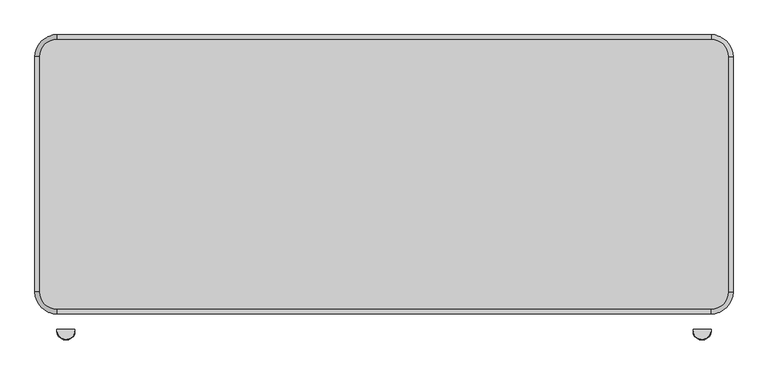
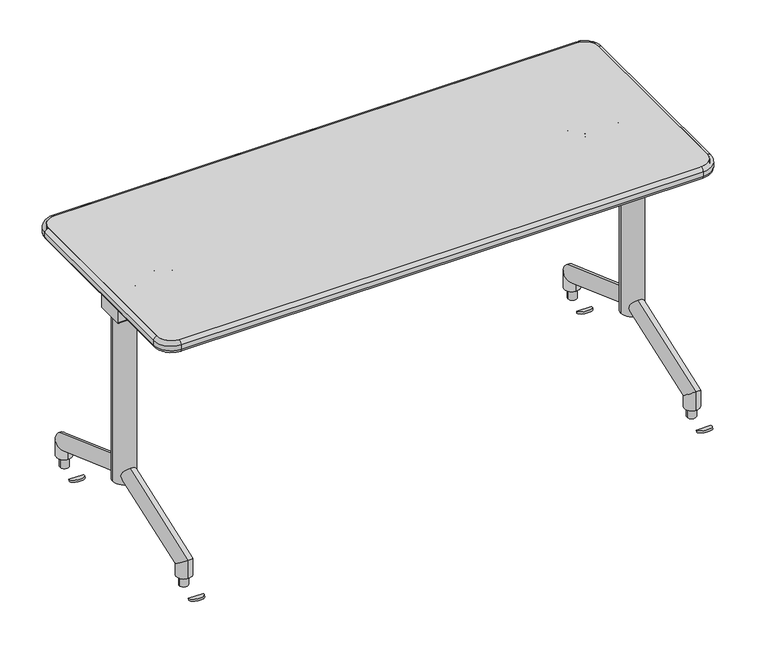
"""IFC4 building model written with IfcOpenShell, lengths in millimetres: furniture geometry, SmithSystem_AM_Table_Education_Elemental_NestAndFold_24D : 24D x 60W."""

from ifc_helpers import new_model, si_unit, point, frame, frame_2d, origin, place, context, project, spatial, polyline, circle_curve, ellipse_curve, trimmed, segment, composite_curve, outline, extrude, source, transform, mapped, element, save
from ifc_brep_helpers import plane_surface, cylinder_surface, revolved_surface, advanced_brep


def furniture_4304682f(model_context):
    return source(origin(), model_context, "Body", "SolidModel", [
        advanced_brep(
        [(1334.7134706, 300.3641301, 727.8257265), (1334.7134706, 307.6350093, 724.192725), (1327.0335156, 307.6350093, 724.192725), (1327.0335156, 300.3641301, 727.8257265), (1321.5159237, 312.5707555, 721.7265071), (1313.3879237, 312.5707555, 721.7265071), (1321.5159237, 377.8125708, 689.1274772), (1313.3879237, 377.8125708, 689.1274772), (1327.1310849, 382.8355973, 686.6176484), (1327.1310849, 390.1064765, 682.9846469), (1427.2139747, 382.8355973, 686.6176484), (1427.2139747, 390.1064765, 682.9846469), (1432.8070377, 377.8323387, 689.1175999), (1440.9350377, 377.8323387, 689.1175999), (1432.8070377, 312.6793981, 721.6722222), (1440.9350377, 312.6793981, 721.6722222), (1427.1679959, 307.6350093, 724.192725), (1427.1679959, 300.3641301, 727.8257265), (1419.6094908, 300.3641301, 727.8257265), (1419.6094908, 307.6350093, 724.192725)],
        [
            (0, 1, circle_curve(frame((1334.7134706, 303.9995697, 726.0092257), z_axis=(1.0, 0.0, 0.0), x_axis=(0.0, 0.8945471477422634, -0.44697360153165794)), 4.064)),
            (1, 0, circle_curve(frame((1334.7134706, 303.9995697, 726.0092257), z_axis=(1.0, 0.0, 0.0), x_axis=(0.0, 0.8945471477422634, -0.44697360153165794)), 4.064)),
            (1, 2),
            (2, 3, circle_curve(frame((1327.0335156, 303.9995697, 726.0092257), z_axis=(1.0, 0.0, 0.0), x_axis=(0.0, 0.8945471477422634, -0.44697360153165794)), 4.064)),
            (3, 0),
            (3, 2, circle_curve(frame((1327.0335156, 303.9995697, 726.0092257), z_axis=(1.0, 0.0, 0.0), x_axis=(0.0, 0.8945471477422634, -0.44697360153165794)), 4.064)),
            (4, 5, circle_curve(frame((1317.4519237, 312.5707555, 721.7265071), z_axis=(0.0, -0.8945471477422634, 0.44697360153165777), x_axis=(1.0, 0.0, 0.0)), 4.064)),
            (5, 3, circle_curve(frame((1327.0335156, 312.5707555, 721.7265071), z_axis=(0.0, 0.4469736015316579, 0.8945471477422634), x_axis=(0.0, -0.8945471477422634, 0.4469736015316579)), 13.645592)),
            (2, 4, circle_curve(frame((1327.0335156, 312.5707555, 721.7265071), z_axis=(0.0, -0.4469736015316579, -0.8945471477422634), x_axis=(0.0, -0.8945471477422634, 0.4469736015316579)), 5.517592)),
            (5, 4, circle_curve(frame((1317.4519237, 312.5707555, 721.7265071), z_axis=(0.0, -0.8945471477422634, 0.44697360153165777), x_axis=(1.0, 0.0, 0.0)), 4.064)),
            (4, 6),
            (6, 7, circle_curve(frame((1317.4519237, 377.8125708, 689.1274772), z_axis=(0.0, -0.8945471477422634, 0.44697360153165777), x_axis=(1.0, 0.0, 0.0)), 4.064)),
            (7, 5),
            (7, 6, circle_curve(frame((1317.4519237, 377.8125708, 689.1274772), z_axis=(0.0, -0.8945471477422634, 0.44697360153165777), x_axis=(1.0, 0.0, 0.0)), 4.064)),
            (8, 9, circle_curve(frame((1327.1310849, 386.4710369, 684.8011476), z_axis=(-1.0, 0.0, 0.0), x_axis=(0.0, -0.8945471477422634, 0.44697360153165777)), 4.064)),
            (9, 7, circle_curve(frame((1327.1310849, 377.8125708, 689.1274772), z_axis=(0.0, 0.4469736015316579, 0.8945471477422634), x_axis=(-1.0, 0.0, 0.0)), 13.7431612)),
            (6, 8, circle_curve(frame((1327.1310849, 377.8125708, 689.1274772), z_axis=(0.0, -0.4469736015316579, -0.8945471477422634), x_axis=(-1.0, 0.0, 0.0)), 5.6151612)),
            (9, 8, circle_curve(frame((1327.1310849, 386.4710369, 684.8011476), z_axis=(-1.0, 0.0, 0.0), x_axis=(0.0, -0.8945471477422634, 0.44697360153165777)), 4.064)),
            (8, 10),
            (10, 11, circle_curve(frame((1427.2139747, 386.4710369, 684.8011476), z_axis=(-1.0, 0.0, 0.0), x_axis=(0.0, -0.8945471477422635, 0.44697360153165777)), 4.064)),
            (11, 9),
            (11, 10, circle_curve(frame((1427.2139747, 386.4710369, 684.8011476), z_axis=(-1.0, 0.0, 0.0), x_axis=(0.0, -0.8945471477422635, 0.44697360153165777)), 4.064)),
            (12, 13, circle_curve(frame((1436.8710377, 377.8323387, 689.1175999), z_axis=(0.0, 0.8945471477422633, -0.44697360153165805), x_axis=(-1.0, 0.0, 0.0)), 4.064)),
            (13, 11, circle_curve(frame((1427.2139747, 377.8323387, 689.1175999), z_axis=(0.0, 0.4469736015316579, 0.8945471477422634), x_axis=(0.0, 0.8945471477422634, -0.4469736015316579)), 13.721063)),
            (10, 12, circle_curve(frame((1427.2139747, 377.8323387, 689.1175999), z_axis=(0.0, -0.4469736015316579, -0.8945471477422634), x_axis=(0.0, 0.8945471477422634, -0.4469736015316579)), 5.593063)),
            (13, 12, circle_curve(frame((1436.8710377, 377.8323387, 689.1175999), z_axis=(0.0, 0.8945471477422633, -0.44697360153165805), x_axis=(-1.0, 0.0, 0.0)), 4.064)),
            (12, 14),
            (14, 15, circle_curve(frame((1436.8710377, 312.6793981, 721.6722222), z_axis=(0.0, 0.894547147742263, -0.4469736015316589), x_axis=(-1.0, 0.0, 0.0)), 4.064)),
            (15, 13),
            (15, 14, circle_curve(frame((1436.8710377, 312.6793981, 721.6722222), z_axis=(0.0, 0.894547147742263, -0.4469736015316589), x_axis=(-1.0, 0.0, 0.0)), 4.064)),
            (16, 17, circle_curve(frame((1427.1679959, 303.9995697, 726.0092257), z_axis=(1.0, 0.0, 0.0), x_axis=(0.0, 0.8945471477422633, -0.446973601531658)), 4.064)),
            (17, 15, circle_curve(frame((1427.1679959, 312.6793981, 721.6722222), z_axis=(0.0, 0.4469736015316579, 0.8945471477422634), x_axis=(1.0, 0.0, 0.0)), 13.7670418)),
            (14, 16, circle_curve(frame((1427.1679959, 312.6793981, 721.6722222), z_axis=(0.0, -0.4469736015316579, -0.8945471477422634), x_axis=(1.0, 0.0, 0.0)), 5.6390418)),
            (17, 16, circle_curve(frame((1427.1679959, 303.9995697, 726.0092257), z_axis=(1.0, 0.0, 0.0), x_axis=(0.0, 0.8945471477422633, -0.446973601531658)), 4.064)),
            (18, 19, circle_curve(frame((1419.6094908, 303.9995697, 726.0092257), z_axis=(-1.0, 0.0, 0.0), x_axis=(0.0, 0.8945471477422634, -0.44697360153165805)), 4.064)),
            (19, 18, circle_curve(frame((1419.6094908, 303.9995697, 726.0092257), z_axis=(-1.0, 0.0, 0.0), x_axis=(0.0, 0.8945471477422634, -0.44697360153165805)), 4.064)),
            (16, 19),
            (18, 17),
        ],
        [
            plane_surface(frame((1334.7134706, 309.47432, 727.857014), z_axis=(1.0, 0.0, 0.0), x_axis=(0.0, 0.44697360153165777, 0.8945471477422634))),
            cylinder_surface(frame((1334.7134706, 303.9995697, 726.0092257), z_axis=(1.0, 0.0, 0.0), x_axis=(0.0, 0.8945471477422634, -0.44697360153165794)), 4.064),
            revolved_surface(trimmed(ellipse_curve(frame((1327.0335156, 303.9995697, 726.0092257), z_axis=(-1.0, 0.0, 0.0), x_axis=(0.0, 0.8945471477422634, -0.44697360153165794)), 4.064, 4.064), [point((1327.0335156, 300.3641301, 727.8257265))], [point((1327.0335156, 307.6350093, 724.192725))], True, "CARTESIAN"), (1327.0335156, 314.4033484, 725.3941527), (0.0, 0.4469736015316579, 0.8945471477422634)),
            revolved_surface(trimmed(ellipse_curve(frame((1327.0335156, 303.9995697, 726.0092257), z_axis=(-1.0, 0.0, 0.0), x_axis=(0.0, 0.8945471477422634, -0.44697360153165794)), 4.064, 4.064), [point((1327.0335156, 307.6350093, 724.192725))], [point((1327.0335156, 300.3641301, 727.8257265))], True, "CARTESIAN"), (1327.0335156, 314.4033484, 725.3941527), (0.0, 0.4469736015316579, 0.8945471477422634)),
            cylinder_surface(frame((1317.4519237, 312.5707555, 721.7265071), z_axis=(0.0, -0.8945471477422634, 0.44697360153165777), x_axis=(1.0, 0.0, 0.0)), 4.064),
            revolved_surface(trimmed(ellipse_curve(frame((1317.4519237, 377.8125708, 689.1274772), z_axis=(0.0, 0.8945471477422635, -0.4469736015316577), x_axis=(1.0, 0.0, 0.0)), 4.064, 4.064), [point((1313.3879237, 377.8125708, 689.1274772))], [point((1321.5159237, 377.8125708, 689.1274772))], True, "CARTESIAN"), (1327.1310849, 379.6451638, 692.7951229), (0.0, 0.4469736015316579, 0.8945471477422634)),
            revolved_surface(trimmed(ellipse_curve(frame((1317.4519237, 377.8125708, 689.1274772), z_axis=(0.0, 0.8945471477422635, -0.4469736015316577), x_axis=(1.0, 0.0, 0.0)), 4.064, 4.064), [point((1321.5159237, 377.8125708, 689.1274772))], [point((1313.3879237, 377.8125708, 689.1274772))], True, "CARTESIAN"), (1327.1310849, 379.6451638, 692.7951229), (0.0, 0.4469736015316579, 0.8945471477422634)),
            cylinder_surface(frame((1327.1310849, 386.4710369, 684.8011476), z_axis=(-1.0, 0.0, 0.0), x_axis=(0.0, -0.8945471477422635, 0.44697360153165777)), 4.064),
            revolved_surface(trimmed(ellipse_curve(frame((1427.2139747, 386.4710369, 684.8011476), z_axis=(1.0, 0.0, 0.0), x_axis=(0.0, -0.8945471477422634, 0.4469736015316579)), 4.064, 4.064), [point((1427.2139747, 390.1064765, 682.9846469))], [point((1427.2139747, 382.8355973, 686.6176484))], True, "CARTESIAN"), (1427.2139747, 379.6649317, 692.7852455), (0.0, 0.4469736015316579, 0.8945471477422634)),
            revolved_surface(trimmed(ellipse_curve(frame((1427.2139747, 386.4710369, 684.8011476), z_axis=(1.0, 0.0, 0.0), x_axis=(0.0, -0.8945471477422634, 0.4469736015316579)), 4.064, 4.064), [point((1427.2139747, 382.8355973, 686.6176484))], [point((1427.2139747, 390.1064765, 682.9846469))], True, "CARTESIAN"), (1427.2139747, 379.6649317, 692.7852455), (0.0, 0.4469736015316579, 0.8945471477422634)),
            cylinder_surface(frame((1436.8710377, 377.8323387, 689.1175999), z_axis=(0.0, 0.894547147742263, -0.4469736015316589), x_axis=(-1.0, 0.0, 0.0)), 4.064),
            revolved_surface(trimmed(ellipse_curve(frame((1436.8710377, 312.6793981, 721.6722222), z_axis=(0.0, -0.8945471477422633, 0.4469736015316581), x_axis=(-1.0, 0.0, 0.0)), 4.064, 4.064), [point((1440.9350377, 312.6793981, 721.6722222))], [point((1432.8070377, 312.6793981, 721.6722222))], True, "CARTESIAN"), (1427.1679959, 314.511991, 725.3398679), (0.0, 0.4469736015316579, 0.8945471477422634)),
            revolved_surface(trimmed(ellipse_curve(frame((1436.8710377, 312.6793981, 721.6722222), z_axis=(0.0, -0.8945471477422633, 0.4469736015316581), x_axis=(-1.0, 0.0, 0.0)), 4.064, 4.064), [point((1432.8070377, 312.6793981, 721.6722222))], [point((1440.9350377, 312.6793981, 721.6722222))], True, "CARTESIAN"), (1427.1679959, 314.511991, 725.3398679), (0.0, 0.4469736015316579, 0.8945471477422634)),
            plane_surface(frame((1419.6094908, 309.47432, 727.857014), z_axis=(-1.0, 0.0, 0.0), x_axis=(0.0, 0.4469736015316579, 0.8945471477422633))),
            cylinder_surface(frame((1427.1679959, 303.9995697, 726.0092257), z_axis=(1.0, 0.0, 0.0), x_axis=(0.0, 0.8945471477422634, -0.44697360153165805)), 4.064),
        ],
        [
            (0, [[1, 2]]),
            (1, [[3, 4, 5, -2]]),
            (1, [[-5, 6, -3, -1]]),
            (2, [[7, 8, -4, 9]]),
            (3, [[10, -9, -6, -8]]),
            (4, [[11, 12, 13, -7]]),
            (4, [[-13, 14, -11, -10]]),
            (5, [[15, 16, -12, 17]]),
            (6, [[18, -17, -14, -16]]),
            (7, [[19, 20, 21, -15]]),
            (7, [[-21, 22, -19, -18]]),
            (8, [[23, 24, -20, 25]]),
            (9, [[26, -25, -22, -24]]),
            (10, [[27, 28, 29, -23]]),
            (10, [[-29, 30, -27, -26]]),
            (11, [[31, 32, -28, 33]]),
            (12, [[34, -33, -30, -32]]),
            (13, [[35, 36]]),
            (14, [[37, -35, 38, -31]]),
            (14, [[-38, -36, -37, -34]]),
        ],
    ),
        advanced_brep(
        [(189.2865294, 307.6222215, 724.1897867), (189.2865294, 300.3513423, 727.8227881), (196.9664844, 300.3513423, 727.8227881), (196.9664844, 307.6222215, 724.1897867), (210.6222023, 312.5670258, 721.7190427), (202.4942023, 312.5670258, 721.7190427), (210.6222023, 377.8088411, 689.1200128), (202.4942023, 377.8088411, 689.1200128), (196.8689151, 390.1118049, 682.9726565), (196.8689151, 382.8409257, 686.605658), (96.7860253, 390.1118049, 682.9726565), (96.7860253, 382.8409257, 686.605658), (83.0548363, 377.8286091, 689.1101355), (91.1828363, 377.8286091, 689.1101355), (83.0548363, 312.6756684, 721.6647578), (91.1828363, 312.6756684, 721.6647578), (96.8320041, 300.3513423, 727.8227881), (96.8320041, 307.6222215, 724.1897867), (104.3905092, 307.6222215, 724.1897867), (104.3905092, 300.3513423, 727.8227881)],
        [
            (0, 1, circle_curve(frame((189.2865294, 303.9867819, 726.0062874), z_axis=(-1.0, 0.0, 0.0), x_axis=(0.0, -0.8945471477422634, 0.4469736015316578)), 4.064)),
            (1, 0, circle_curve(frame((189.2865294, 303.9867819, 726.0062874), z_axis=(-1.0, 0.0, 0.0), x_axis=(0.0, -0.8945471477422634, 0.4469736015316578)), 4.064)),
            (1, 2),
            (2, 3, circle_curve(frame((196.9664844, 303.9867819, 726.0062874), z_axis=(-1.0, 0.0, 0.0), x_axis=(0.0, -0.8945471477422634, 0.4469736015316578)), 4.064)),
            (3, 0),
            (3, 2, circle_curve(frame((196.9664844, 303.9867819, 726.0062874), z_axis=(-1.0, 0.0, 0.0), x_axis=(0.0, -0.8945471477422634, 0.4469736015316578)), 4.064)),
            (4, 5, circle_curve(frame((206.5582023, 312.5670258, 721.7190427), z_axis=(0.0, -0.8945471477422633, 0.446973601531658), x_axis=(1.0, 0.0, 0.0)), 4.064)),
            (5, 3, circle_curve(frame((196.9664844, 312.5670258, 721.7190427), z_axis=(0.0, -0.4469736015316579, -0.8945471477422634), x_axis=(0.0, -0.8945471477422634, 0.4469736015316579)), 5.5277179)),
            (2, 4, circle_curve(frame((196.9664844, 312.5670258, 721.7190427), z_axis=(0.0, 0.4469736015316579, 0.8945471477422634), x_axis=(0.0, -0.8945471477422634, 0.4469736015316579)), 13.6557179)),
            (5, 4, circle_curve(frame((206.5582023, 312.5670258, 721.7190427), z_axis=(0.0, -0.8945471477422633, 0.446973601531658), x_axis=(1.0, 0.0, 0.0)), 4.064)),
            (4, 6),
            (6, 7, circle_curve(frame((206.5582023, 377.8088411, 689.1200128), z_axis=(0.0, -0.8945471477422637, 0.4469736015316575), x_axis=(1.0, 0.0, 0.0)), 4.064)),
            (7, 5),
            (7, 6, circle_curve(frame((206.5582023, 377.8088411, 689.1200128), z_axis=(0.0, -0.8945471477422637, 0.4469736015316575), x_axis=(1.0, 0.0, 0.0)), 4.064)),
            (8, 9, circle_curve(frame((196.8689151, 386.4763653, 684.7891573), z_axis=(1.0, 0.0, 0.0), x_axis=(0.0, 0.8945471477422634, -0.44697360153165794)), 4.064)),
            (9, 7, circle_curve(frame((196.8689151, 377.8088411, 689.1200128), z_axis=(0.0, -0.4469736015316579, -0.8945471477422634), x_axis=(1.0, 0.0, 0.0)), 5.6252872)),
            (6, 8, circle_curve(frame((196.8689151, 377.8088411, 689.1200128), z_axis=(0.0, 0.4469736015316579, 0.8945471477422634), x_axis=(1.0, 0.0, 0.0)), 13.7532872)),
            (9, 8, circle_curve(frame((196.8689151, 386.4763653, 684.7891573), z_axis=(1.0, 0.0, 0.0), x_axis=(0.0, 0.8945471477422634, -0.44697360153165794)), 4.064)),
            (8, 10),
            (10, 11, circle_curve(frame((96.7860253, 386.4763653, 684.7891573), z_axis=(1.0, 0.0, 0.0), x_axis=(0.0, 0.8945471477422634, -0.446973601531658)), 4.064)),
            (11, 9),
            (11, 10, circle_curve(frame((96.7860253, 386.4763653, 684.7891573), z_axis=(1.0, 0.0, 0.0), x_axis=(0.0, 0.8945471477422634, -0.446973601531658)), 4.064)),
            (12, 13, circle_curve(frame((87.1188363, 377.8286091, 689.1101355), z_axis=(0.0, 0.8945471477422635, -0.44697360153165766), x_axis=(-1.0, 0.0, 0.0)), 4.064)),
            (13, 11, circle_curve(frame((96.7860253, 377.8286091, 689.1101355), z_axis=(0.0, -0.4469736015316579, -0.8945471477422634), x_axis=(0.0, 0.8945471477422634, -0.4469736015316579)), 5.6031889)),
            (10, 12, circle_curve(frame((96.7860253, 377.8286091, 689.1101355), z_axis=(0.0, 0.4469736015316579, 0.8945471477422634), x_axis=(0.0, 0.8945471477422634, -0.4469736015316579)), 13.7311889)),
            (13, 12, circle_curve(frame((87.1188363, 377.8286091, 689.1101355), z_axis=(0.0, 0.8945471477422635, -0.44697360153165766), x_axis=(-1.0, 0.0, 0.0)), 4.064)),
            (12, 14),
            (14, 15, circle_curve(frame((87.1188363, 312.6756684, 721.6647578), z_axis=(0.0, 0.8945471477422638, -0.446973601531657), x_axis=(-1.0, 0.0, 0.0)), 4.064)),
            (15, 13),
            (15, 14, circle_curve(frame((87.1188363, 312.6756684, 721.6647578), z_axis=(0.0, 0.8945471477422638, -0.446973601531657), x_axis=(-1.0, 0.0, 0.0)), 4.064)),
            (16, 17, circle_curve(frame((96.8320041, 303.9867819, 726.0062874), z_axis=(-1.0, 0.0, 0.0), x_axis=(0.0, -0.8945471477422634, 0.44697360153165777)), 4.064)),
            (17, 15, circle_curve(frame((96.8320041, 312.6756684, 721.6647578), z_axis=(0.0, -0.4469736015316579, -0.8945471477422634), x_axis=(-1.0, 0.0, 0.0)), 5.6491678)),
            (14, 16, circle_curve(frame((96.8320041, 312.6756684, 721.6647578), z_axis=(0.0, 0.4469736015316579, 0.8945471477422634), x_axis=(-1.0, 0.0, 0.0)), 13.7771678)),
            (17, 16, circle_curve(frame((96.8320041, 303.9867819, 726.0062874), z_axis=(-1.0, 0.0, 0.0), x_axis=(0.0, -0.8945471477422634, 0.44697360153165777)), 4.064)),
            (18, 19, circle_curve(frame((104.3905092, 303.9867819, 726.0062874), z_axis=(1.0, 0.0, 0.0), x_axis=(0.0, -0.8945471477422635, 0.44697360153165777)), 4.064)),
            (19, 18, circle_curve(frame((104.3905092, 303.9867819, 726.0062874), z_axis=(1.0, 0.0, 0.0), x_axis=(0.0, -0.8945471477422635, 0.44697360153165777)), 4.064)),
            (16, 19),
            (18, 17),
        ],
        [
            plane_surface(frame((189.2865294, 309.47432, 727.857014), z_axis=(-1.0, 0.0, 0.0), x_axis=(0.0, 0.4469736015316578, 0.8945471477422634))),
            cylinder_surface(frame((189.2865294, 303.9867819, 726.0062874), z_axis=(-0.9999999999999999, 0.0, 0.0), x_axis=(0.0, -0.8945471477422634, 0.4469736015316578)), 4.064),
            revolved_surface(trimmed(ellipse_curve(frame((196.9664844, 303.9867819, 726.0062874), z_axis=(1.0, 0.0, 0.0), x_axis=(0.0, -0.8945471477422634, 0.4469736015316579)), 4.064, 4.064), [point((196.9664844, 307.6222215, 724.1897867))], [point((196.9664844, 300.3513423, 727.8227881))], True, "CARTESIAN"), (196.9664844, 314.4033484, 725.3941527), (0.0, -0.4469736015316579, -0.8945471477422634)),
            revolved_surface(trimmed(ellipse_curve(frame((196.9664844, 303.9867819, 726.0062874), z_axis=(1.0, 0.0, 0.0), x_axis=(0.0, -0.8945471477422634, 0.4469736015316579)), 4.064, 4.064), [point((196.9664844, 300.3513423, 727.8227881))], [point((196.9664844, 307.6222215, 724.1897867))], True, "CARTESIAN"), (196.9664844, 314.4033484, 725.3941527), (0.0, -0.4469736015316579, -0.8945471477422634)),
            cylinder_surface(frame((206.5582023, 312.5670258, 721.7190427), z_axis=(0.0, -0.8945471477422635, 0.4469736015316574), x_axis=(1.0, 0.0, 0.0)), 4.064),
            revolved_surface(trimmed(ellipse_curve(frame((206.5582023, 377.8088411, 689.1200128), z_axis=(0.0, 0.8945471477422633, -0.4469736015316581), x_axis=(1.0, 0.0, 0.0)), 4.064, 4.064), [point((202.4942023, 377.8088411, 689.1200128))], [point((210.6222023, 377.8088411, 689.1200128))], True, "CARTESIAN"), (196.8689151, 379.6451638, 692.7951229), (0.0, -0.4469736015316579, -0.8945471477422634)),
            revolved_surface(trimmed(ellipse_curve(frame((206.5582023, 377.8088411, 689.1200128), z_axis=(0.0, 0.8945471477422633, -0.4469736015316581), x_axis=(1.0, 0.0, 0.0)), 4.064, 4.064), [point((210.6222023, 377.8088411, 689.1200128))], [point((202.4942023, 377.8088411, 689.1200128))], True, "CARTESIAN"), (196.8689151, 379.6451638, 692.7951229), (0.0, -0.4469736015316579, -0.8945471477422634)),
            cylinder_surface(frame((196.8689151, 386.4763653, 684.7891573), z_axis=(1.0, 0.0, 0.0), x_axis=(0.0, 0.8945471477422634, -0.446973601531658)), 4.064),
            revolved_surface(trimmed(ellipse_curve(frame((96.7860253, 386.4763653, 684.7891573), z_axis=(-1.0, 0.0, 0.0), x_axis=(0.0, 0.8945471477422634, -0.446973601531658)), 4.064, 4.064), [point((96.7860253, 382.8409257, 686.605658))], [point((96.7860253, 390.1118049, 682.9726565))], True, "CARTESIAN"), (96.7860253, 379.6649317, 692.7852455), (0.0, -0.4469736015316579, -0.8945471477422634)),
            revolved_surface(trimmed(ellipse_curve(frame((96.7860253, 386.4763653, 684.7891573), z_axis=(-1.0, 0.0, 0.0), x_axis=(0.0, 0.8945471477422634, -0.446973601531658)), 4.064, 4.064), [point((96.7860253, 390.1118049, 682.9726565))], [point((96.7860253, 382.8409257, 686.605658))], True, "CARTESIAN"), (96.7860253, 379.6649317, 692.7852455), (0.0, -0.4469736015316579, -0.8945471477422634)),
            cylinder_surface(frame((87.1188363, 377.8286091, 689.1101355), z_axis=(0.0, 0.8945471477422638, -0.446973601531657), x_axis=(-1.0, 0.0, 0.0)), 4.064),
            revolved_surface(trimmed(ellipse_curve(frame((87.1188363, 312.6756684, 721.6647578), z_axis=(0.0, -0.8945471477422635, 0.4469736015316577), x_axis=(-1.0, 0.0, 0.0)), 4.064, 4.064), [point((91.1828363, 312.6756684, 721.6647578))], [point((83.0548363, 312.6756684, 721.6647578))], True, "CARTESIAN"), (96.8320041, 314.511991, 725.3398679), (0.0, -0.4469736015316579, -0.8945471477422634)),
            revolved_surface(trimmed(ellipse_curve(frame((87.1188363, 312.6756684, 721.6647578), z_axis=(0.0, -0.8945471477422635, 0.4469736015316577), x_axis=(-1.0, 0.0, 0.0)), 4.064, 4.064), [point((83.0548363, 312.6756684, 721.6647578))], [point((91.1828363, 312.6756684, 721.6647578))], True, "CARTESIAN"), (96.8320041, 314.511991, 725.3398679), (0.0, -0.4469736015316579, -0.8945471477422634)),
            plane_surface(frame((104.3905092, 309.47432, 727.857014), z_axis=(1.0, 0.0, 0.0), x_axis=(0.0, 0.4469736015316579, 0.8945471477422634))),
            cylinder_surface(frame((96.8320041, 303.9867819, 726.0062874), z_axis=(-1.0000000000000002, 0.0, 0.0), x_axis=(0.0, -0.8945471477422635, 0.44697360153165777)), 4.064),
        ],
        [
            (0, [[1, 2]]),
            (1, [[3, 4, 5, -2]]),
            (1, [[-5, 6, -3, -1]]),
            (2, [[7, 8, -4, 9]]),
            (3, [[10, -9, -6, -8]]),
            (4, [[11, 12, 13, -7]]),
            (4, [[-13, 14, -11, -10]]),
            (5, [[15, 16, -12, 17]]),
            (6, [[18, -17, -14, -16]]),
            (7, [[19, 20, 21, -15]]),
            (7, [[-21, 22, -19, -18]]),
            (8, [[23, 24, -20, 25]]),
            (9, [[26, -25, -22, -24]]),
            (10, [[27, 28, 29, -23]]),
            (10, [[-29, 30, -27, -26]]),
            (11, [[31, 32, -28, 33]]),
            (12, [[34, -33, -30, -32]]),
            (13, [[35, 36]]),
            (14, [[37, -35, 38, -31]]),
            (14, [[-38, -36, -37, -34]]),
        ],
    ),
        extrude(outline(composite_curve([segment(trimmed(circle_curve(frame_2d((67.6376194, 304.8)), 30.1619336), [point((37.4756858, 304.8))], [point((97.799553, 304.8))], False, "CARTESIAN"), True, "CONTINUOUS"), segment(trimmed(circle_curve(frame_2d((67.6376194, 304.8)), 30.1619336), [point((97.799553, 304.8))], [point((37.4756858, 304.8))], False, "CARTESIAN"), True, "CONTINUOUS")], self_intersect=False)), frame((0.0, 0.0, 176.5765345), z_axis=(0.0, 0.0, 1.0), x_axis=(1.0, 0.0, 0.0)), (0.0, 0.0, 1.0), 482.8708043),
        extrude(outline(composite_curve([segment(trimmed(circle_curve(frame_2d((1456.3623806, 304.8)), 30.1619336), [point((1426.200447, 304.8))], [point((1486.5243142, 304.8))], False, "CARTESIAN"), True, "CONTINUOUS"), segment(trimmed(circle_curve(frame_2d((1456.3623806, 304.8)), 30.1619336), [point((1486.5243142, 304.8))], [point((1426.200447, 304.8))], False, "CARTESIAN"), True, "CONTINUOUS")], self_intersect=False)), frame((0.0, 0.0, 176.5765345), z_axis=(0.0, 0.0, 1.0), x_axis=(1.0, 0.0, 0.0)), (0.0, 0.0, 1.0), 482.8708043),
        extrude(outline(polyline([(161.8904019, 551.0151675), (161.8904019, 327.1633652), (133.8581916, 327.1633652), (133.8581916, 551.0151675), (161.8904019, 551.0151675)])), frame((0.0, 0.0, 720.280274), z_axis=(0.0, 0.0, 1.0), x_axis=(1.0, 0.0, 0.0)), (0.0, 0.0, 1.0), 3.0744342),
        extrude(outline(polyline([(1390.1418084, 551.0151675), (1390.1418084, 327.1633652), (1362.1095981, 327.1633652), (1362.1095981, 551.0151675), (1390.1418084, 551.0151675)])), frame((0.0, 0.0, 720.280274), z_axis=(0.0, 0.0, 1.0), x_axis=(1.0, 0.0, 0.0)), (0.0, 0.0, 1.0), 3.0744342),
        extrude(outline(polyline([(1395.6745397, 551.0143137), (128.3254603, 551.0143137), (128.3254603, 581.0147172), (1395.6745397, 581.0147172), (1395.6745397, 551.0143137)])), frame((0.0, 0.0, 702.9875008), z_axis=(0.0, 0.0, 1.0), x_axis=(1.0, 0.0, 0.0)), (0.0, 0.0, 1.0), 20.3672075),
        extrude(outline(polyline([(282.4370254, 730.2285912), (282.4370254, 701.4207676), (327.1629746, 701.4207676), (327.1629746, 730.2285912), (349.2946933, 730.2285912), (349.2946933, 727.8836076), (330.2007737, 727.8836076), (330.2007737, 699.4317459), (279.3992263, 699.4317459), (279.3992263, 727.8836076), (260.3053067, 727.8836076), (260.3053067, 730.2285912), (282.4370254, 730.2285912)])), frame((211.3171616, 0.0, 0.0), z_axis=(1.0, 0.0, 0.0), x_axis=(0.0, 1.0, 0.0)), (0.0, 0.0, 1.0), 1101.3656767),
        extrude(outline(polyline([(699.4317459, 102.364461), (699.4317459, 191.3646412), (730.2285912, 191.3646412), (730.2285912, 188.3699958), (702.6757476, 188.3699958), (702.6757476, 105.3591064), (730.2285912, 105.3591064), (730.2285912, 102.364461), (699.4317459, 102.364461)])), frame((0.0, 129.8004165, 0.0), z_axis=(0.0, 1.0, 0.0), x_axis=(0.0, 0.0, 1.0)), (0.0, 0.0, 1.0), 349.999167),
        extrude(outline(polyline([(699.4317459, 1421.635539), (730.2285912, 1421.635539), (730.2285912, 1418.6408936), (702.6757476, 1418.6408936), (702.6757476, 1335.6300042), (730.2285912, 1335.6300042), (730.2285912, 1332.6353588), (699.4317459, 1332.6353588), (699.4317459, 1421.635539)])), frame((0.0, 129.8004165, 0.0), z_axis=(0.0, 1.0, 0.0), x_axis=(0.0, 0.0, 1.0)), (0.0, 0.0, 1.0), 349.999167),
        extrude(outline(composite_curve([segment(trimmed(circle_curve(frame_2d((341.7081299, 696.3106422)), 3.1211038), [point((341.7081299, 699.4317459))], [point((344.8292336, 696.3106422))], False, "CARTESIAN"), True, "CONTINUOUS"), segment(polyline([(344.8292336, 696.3106422), (344.8292336, 662.3885905)]), True, "CONTINUOUS"), segment(trimmed(circle_curve(frame_2d((341.8879819, 662.3885905)), 2.9412518), [point((344.8292336, 662.3885905))], [point((341.8879819, 659.4473388))], False, "CARTESIAN"), True, "CONTINUOUS"), segment(polyline([(341.8879819, 659.4473388), (267.720262, 659.4473388)]), True, "CONTINUOUS"), segment(trimmed(circle_curve(frame_2d((267.720262, 662.5890828)), 3.1417441), [point((267.720262, 659.4473388))], [point((264.5785179, 662.5890828))], False, "CARTESIAN"), True, "CONTINUOUS"), segment(polyline([(264.5785179, 662.5890828), (264.5785179, 696.268135)]), True, "CONTINUOUS"), segment(trimmed(circle_curve(frame_2d((267.7421288, 696.268135)), 3.1636109), [point((264.5785179, 696.268135))], [point((267.7421288, 699.4317459))], False, "CARTESIAN"), True, "CONTINUOUS"), segment(polyline([(267.7421288, 699.4317459), (341.7081299, 699.4317459)]), True, "CONTINUOUS")], self_intersect=False)), frame((29.2900918, 0.0, 0.0), z_axis=(1.0, 0.0, 0.0), x_axis=(0.0, 1.0, 0.0)), (0.0, 0.0, 1.0), 1465.4198163),
        advanced_brep(
        [(0.0, 47.752, 752.475029), (0.0, 47.752, 739.7749708), (47.752, 0.0, 739.7749708), (47.752, 0.0, 752.475029), (9.652, 47.752, 762.0), (47.752, 9.652, 762.0), (9.652, 47.752, 730.2285912), (47.752, 9.652, 730.2285912), (0.0, 561.848, 752.475029), (0.0, 561.848, 739.7749708), (9.652, 561.848, 762.0), (9.652, 561.848, 730.2285912), (47.752, 609.6, 752.475029), (47.752, 609.6, 739.7749708), (47.752, 599.948, 762.0), (47.752, 599.948, 730.2285912), (1476.248, 609.6, 752.475029), (1476.248, 609.6, 739.7749708), (1476.248, 599.948, 762.0), (1476.248, 599.948, 730.2285912), (1524.0, 561.848, 752.475029), (1524.0, 561.848, 739.7749708), (1514.348, 561.848, 762.0), (1514.348, 561.848, 730.2285912), (1524.0, 47.752, 752.475029), (1524.0, 47.752, 739.7749708), (1514.348, 47.752, 762.0), (1514.348, 47.752, 730.2285912), (1476.248, 0.0, 752.475029), (1476.248, 0.0, 739.7749708), (1476.248, 9.652, 762.0), (1476.248, 9.652, 730.2285912)],
        [
            (0, 1),
            (1, 2, circle_curve(frame((47.752, 47.752, 739.7749708), z_axis=(0.0, 0.0, 1.0), x_axis=(0.0, -1.0, 0.0)), 47.752)),
            (2, 3),
            (3, 0, circle_curve(frame((47.752, 47.752, 752.475029), z_axis=(0.0, 0.0, -1.0), x_axis=(0.0, -1.0, 0.0)), 47.752)),
            (4, 0, circle_curve(frame((9.5258069, 47.752, 752.475029), z_axis=(0.0, -1.0, 0.0), x_axis=(1.0, 0.0, 0.0)), 9.5258069)),
            (3, 5, circle_curve(frame((47.752, 9.5258069, 752.475029), z_axis=(-1.0, 0.0, 0.0), x_axis=(0.0, 1.0, 0.0)), 9.5258069)),
            (5, 4, circle_curve(frame((47.752, 47.752, 762.0), z_axis=(0.0, 0.0, -1.0), x_axis=(0.0, -1.0, 0.0)), 38.1)),
            (6, 4),
            (5, 7),
            (7, 6, circle_curve(frame((47.752, 47.752, 730.2285912), z_axis=(0.0, 0.0, -1.0), x_axis=(0.0, -1.0, 0.0)), 38.1)),
            (1, 6, circle_curve(frame((9.5469575, 47.752, 739.7749708), z_axis=(0.0, -1.0, 0.0), x_axis=(1.0, 0.0, 0.0)), 9.5469575)),
            (7, 2, circle_curve(frame((47.752, 9.5469575, 739.7749708), z_axis=(-1.0, 0.0, 0.0), x_axis=(0.0, 1.0, 0.0)), 9.5469575)),
            (0, 8),
            (8, 9),
            (9, 1),
            (4, 10),
            (10, 8, circle_curve(frame((9.5258069, 561.848, 752.475029), z_axis=(0.0, -1.0, 0.0), x_axis=(1.0, 0.0, 0.0)), 9.5258069)),
            (6, 11),
            (11, 10),
            (9, 11, circle_curve(frame((9.5469575, 561.848, 739.7749708), z_axis=(0.0, -1.0, 0.0), x_axis=(1.0, 0.0, 0.0)), 9.5469575)),
            (12, 13),
            (13, 9, circle_curve(frame((47.752, 561.848, 739.7749708), z_axis=(0.0, 0.0, 1.0), x_axis=(-1.0, 0.0, 0.0)), 47.752)),
            (8, 12, circle_curve(frame((47.752, 561.848, 752.475029), z_axis=(0.0, 0.0, -1.0), x_axis=(-1.0, 0.0, 0.0)), 47.752)),
            (14, 12, circle_curve(frame((47.752, 600.0741931, 752.475029), z_axis=(-1.0, 0.0, 0.0), x_axis=(0.0, -1.0, 0.0)), 9.5258069)),
            (10, 14, circle_curve(frame((47.752, 561.848, 762.0), z_axis=(0.0, 0.0, -1.0), x_axis=(-1.0, 0.0, 0.0)), 38.1)),
            (15, 14),
            (11, 15, circle_curve(frame((47.752, 561.848, 730.2285912), z_axis=(0.0, 0.0, -1.0), x_axis=(-1.0, 0.0, 0.0)), 38.1)),
            (13, 15, circle_curve(frame((47.752, 600.0530425, 739.7749708), z_axis=(-1.0, 0.0, 0.0), x_axis=(0.0, -1.0, 0.0)), 9.5469575)),
            (12, 16),
            (16, 17),
            (17, 13),
            (14, 18),
            (18, 16, circle_curve(frame((1476.248, 600.0741931, 752.475029), z_axis=(-1.0, 0.0, 0.0), x_axis=(0.0, -1.0, 0.0)), 9.5258069)),
            (15, 19),
            (19, 18),
            (17, 19, circle_curve(frame((1476.248, 600.0530425, 739.7749708), z_axis=(-1.0, 0.0, 0.0), x_axis=(0.0, -1.0, 0.0)), 9.5469575)),
            (20, 21),
            (21, 17, circle_curve(frame((1476.248, 561.848, 739.7749708), z_axis=(0.0, 0.0, 1.0), x_axis=(0.0, 1.0, 0.0)), 47.752)),
            (16, 20, circle_curve(frame((1476.248, 561.848, 752.475029), z_axis=(0.0, 0.0, -1.0), x_axis=(0.0, 1.0, 0.0)), 47.752)),
            (22, 20, circle_curve(frame((1514.4741931, 561.848, 752.475029), z_axis=(0.0, 1.0, 0.0), x_axis=(-1.0, 0.0, 0.0)), 9.5258069)),
            (18, 22, circle_curve(frame((1476.248, 561.848, 762.0), z_axis=(0.0, 0.0, -1.0), x_axis=(0.0, 1.0, 0.0)), 38.1)),
            (23, 22),
            (19, 23, circle_curve(frame((1476.248, 561.848, 730.2285912), z_axis=(0.0, 0.0, -1.0), x_axis=(0.0, 1.0, 0.0)), 38.1)),
            (21, 23, circle_curve(frame((1514.4530425, 561.848, 739.7749708), z_axis=(0.0, 1.0, 0.0), x_axis=(-1.0, 0.0, 0.0)), 9.5469575)),
            (20, 24),
            (24, 25),
            (25, 21),
            (22, 26),
            (26, 24, circle_curve(frame((1514.4741931, 47.752, 752.475029), z_axis=(0.0, 1.0, 0.0), x_axis=(-1.0, 0.0, 0.0)), 9.5258069)),
            (23, 27),
            (27, 26),
            (25, 27, circle_curve(frame((1514.4530425, 47.752, 739.7749708), z_axis=(0.0, 1.0, 0.0), x_axis=(-1.0, 0.0, 0.0)), 9.5469575)),
            (28, 29),
            (29, 25, circle_curve(frame((1476.248, 47.752, 739.7749708), z_axis=(0.0, 0.0, 1.0), x_axis=(1.0, 0.0, 0.0)), 47.752)),
            (24, 28, circle_curve(frame((1476.248, 47.752, 752.475029), z_axis=(0.0, 0.0, -1.0), x_axis=(1.0, 0.0, 0.0)), 47.752)),
            (30, 28, circle_curve(frame((1476.248, 9.5258069, 752.475029), z_axis=(1.0, 0.0, 0.0), x_axis=(0.0, 1.0, 0.0)), 9.5258069)),
            (26, 30, circle_curve(frame((1476.248, 47.752, 762.0), z_axis=(0.0, 0.0, -1.0), x_axis=(1.0, 0.0, 0.0)), 38.1)),
            (31, 30),
            (27, 31, circle_curve(frame((1476.248, 47.752, 730.2285912), z_axis=(0.0, 0.0, -1.0), x_axis=(1.0, 0.0, 0.0)), 38.1)),
            (29, 31, circle_curve(frame((1476.248, 9.5469575, 739.7749708), z_axis=(1.0, 0.0, 0.0), x_axis=(0.0, 1.0, 0.0)), 9.5469575)),
            (28, 3),
            (2, 29),
            (30, 5),
            (31, 7),
        ],
        [
            cylinder_surface(frame((47.752, 47.752, 0.0), z_axis=(0.0, 0.0, 1.0), x_axis=(0.0, -1.0, 0.0)), 47.752),
            revolved_surface(trimmed(ellipse_curve(frame((47.752, 9.5258069, 752.475029), z_axis=(-1.0, 0.0, 0.0), x_axis=(0.0, 1.0, 0.0)), 9.5258069, 9.5258069), [point((47.752, 0.0, 752.475029))], [point((47.752, 9.652, 762.0))], True, "CARTESIAN"), (47.752, 47.752, 0.0), (0.0, 0.0, 1.0)),
            revolved_surface(polyline([(47.752, 9.652000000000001, 762.0), (47.752, 9.652000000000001, 730.2285912)]), (47.752, 47.752, 0.0), (0.0, 0.0, 1.0)),
            revolved_surface(trimmed(ellipse_curve(frame((47.752, 9.5469575, 739.7749708), z_axis=(-1.0, 0.0, 0.0), x_axis=(0.0, 1.0, 0.0)), 9.5469575, 9.5469575), [point((47.752, 9.652, 730.2285912))], [point((47.752, 0.0, 739.7749708))], True, "CARTESIAN"), (47.752, 47.752, 0.0), (0.0, 0.0, 1.0)),
            plane_surface(frame((0.0, 47.752, 739.7749708), z_axis=(-1.0, 0.0, 0.0), x_axis=(0.0, 1.0, 0.0))),
            cylinder_surface(frame((9.5258069, 47.752, 752.475029), z_axis=(0.0, -1.0, 0.0), x_axis=(1.0, 0.0, 0.0)), 9.5258069),
            plane_surface(frame((9.652, 47.752, 762.0), z_axis=(1.0, 0.0, 0.0), x_axis=(0.0, 1.0, 0.0))),
            cylinder_surface(frame((9.5469575, 47.752, 739.7749708), z_axis=(0.0, -1.0, 0.0), x_axis=(1.0, 0.0, 0.0)), 9.5469575),
            cylinder_surface(frame((47.752, 561.848, 0.0), z_axis=(0.0, 0.0, 1.0), x_axis=(-1.0, 0.0, 0.0)), 47.752),
            revolved_surface(trimmed(ellipse_curve(frame((9.5258069, 561.848, 752.475029), z_axis=(0.0, 1.0, 0.0), x_axis=(1.0, 0.0, 0.0)), 9.5258069, 9.5258069), [point((0.0, 561.848, 752.475029))], [point((9.652, 561.848, 762.0))], True, "CARTESIAN"), (47.752, 561.848, 0.0), (0.0, 0.0, 1.0)),
            revolved_surface(polyline([(9.652000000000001, 561.848, 762.0), (9.652000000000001, 561.848, 730.2285912)]), (47.752, 561.848, 0.0), (0.0, 0.0, 1.0)),
            revolved_surface(trimmed(ellipse_curve(frame((9.5469575, 561.848, 739.7749708), z_axis=(0.0, 1.0, 0.0), x_axis=(1.0, 0.0, 0.0)), 9.5469575, 9.5469575), [point((9.652, 561.848, 730.2285912))], [point((0.0, 561.848, 739.7749708))], True, "CARTESIAN"), (47.752, 561.848, 0.0), (0.0, 0.0, 1.0)),
            plane_surface(frame((47.752, 609.6, 739.7749708), z_axis=(0.0, 1.0, 0.0), x_axis=(1.0, 0.0, 0.0))),
            cylinder_surface(frame((47.752, 600.0741931, 752.475029), z_axis=(-1.0, 0.0, 0.0), x_axis=(0.0, -1.0, 0.0)), 9.5258069),
            plane_surface(frame((47.752, 599.948, 762.0), z_axis=(0.0, -1.0, 0.0), x_axis=(1.0, 0.0, 0.0))),
            cylinder_surface(frame((47.752, 600.0530425, 739.7749708), z_axis=(-1.0, 0.0, 0.0), x_axis=(0.0, -1.0, 0.0)), 9.5469575),
            cylinder_surface(frame((1476.248, 561.848, 0.0), z_axis=(0.0, 0.0, 1.0), x_axis=(0.0, 1.0, 0.0)), 47.752),
            revolved_surface(trimmed(ellipse_curve(frame((1476.248, 600.0741931, 752.475029), z_axis=(1.0, 0.0, 0.0), x_axis=(0.0, -1.0, 0.0)), 9.5258069, 9.5258069), [point((1476.248, 609.6, 752.475029))], [point((1476.248, 599.948, 762.0))], True, "CARTESIAN"), (1476.248, 561.848, 0.0), (0.0, 0.0, 1.0)),
            revolved_surface(polyline([(1476.248, 599.948, 762.0), (1476.248, 599.948, 730.2285912)]), (1476.248, 561.848, 0.0), (0.0, 0.0, 1.0)),
            revolved_surface(trimmed(ellipse_curve(frame((1476.248, 600.0530425, 739.7749708), z_axis=(1.0, 0.0, 0.0), x_axis=(0.0, -1.0, 0.0)), 9.5469575, 9.5469575), [point((1476.248, 599.948, 730.2285912))], [point((1476.248, 609.6, 739.7749708))], True, "CARTESIAN"), (1476.248, 561.848, 0.0), (0.0, 0.0, 1.0)),
            plane_surface(frame((1524.0, 561.848, 739.7749708), z_axis=(1.0, 0.0, 0.0), x_axis=(0.0, -1.0, 0.0))),
            cylinder_surface(frame((1514.4741931, 561.848, 752.475029), z_axis=(0.0, 1.0, 0.0), x_axis=(-1.0, 0.0, 0.0)), 9.5258069),
            plane_surface(frame((1514.348, 561.848, 762.0), z_axis=(-1.0, 0.0, 0.0), x_axis=(0.0, -1.0, 0.0))),
            cylinder_surface(frame((1514.4530425, 561.848, 739.7749708), z_axis=(0.0, 1.0, 0.0), x_axis=(-1.0, 0.0, 0.0)), 9.5469575),
            cylinder_surface(frame((1476.248, 47.752, 0.0), z_axis=(0.0, 0.0, 1.0), x_axis=(1.0, 0.0, 0.0)), 47.752),
            revolved_surface(trimmed(ellipse_curve(frame((1514.4741931, 47.752, 752.475029), z_axis=(0.0, -1.0, 0.0), x_axis=(-1.0, 0.0, 0.0)), 9.5258069, 9.5258069), [point((1524.0, 47.752, 752.475029))], [point((1514.348, 47.752, 762.0))], True, "CARTESIAN"), (1476.248, 47.752, 0.0), (0.0, 0.0, 1.0)),
            revolved_surface(polyline([(1514.348, 47.752, 762.0), (1514.348, 47.752, 730.2285912)]), (1476.248, 47.752, 0.0), (0.0, 0.0, 1.0)),
            revolved_surface(trimmed(ellipse_curve(frame((1514.4530425, 47.752, 739.7749708), z_axis=(0.0, -1.0, 0.0), x_axis=(-1.0, 0.0, 0.0)), 9.5469575, 9.5469575), [point((1514.348, 47.752, 730.2285912))], [point((1524.0, 47.752, 739.7749708))], True, "CARTESIAN"), (1476.248, 47.752, 0.0), (0.0, 0.0, 1.0)),
            plane_surface(frame((1476.248, 0.0, 739.7749708), z_axis=(0.0, -1.0, 0.0), x_axis=(-1.0, 0.0, 0.0))),
            cylinder_surface(frame((1476.248, 9.5258069, 752.475029), z_axis=(1.0, 0.0, 0.0), x_axis=(0.0, 1.0, 0.0)), 9.5258069),
            plane_surface(frame((1476.248, 9.652, 762.0), z_axis=(0.0, 1.0, 0.0), x_axis=(-1.0, 0.0, 0.0))),
            cylinder_surface(frame((1476.248, 9.5469575, 739.7749708), z_axis=(1.0, 0.0, 0.0), x_axis=(0.0, 1.0, 0.0)), 9.5469575),
        ],
        [
            (0, [[1, 2, 3, 4]]),
            (1, [[5, -4, 6, 7]]),
            (2, [[8, -7, 9, 10]]),
            (3, [[11, -10, 12, -2]]),
            (4, [[13, 14, 15, -1]]),
            (5, [[16, 17, -13, -5]]),
            (6, [[18, 19, -16, -8]]),
            (7, [[-15, 20, -18, -11]]),
            (8, [[21, 22, -14, 23]]),
            (9, [[24, -23, -17, 25]]),
            (10, [[26, -25, -19, 27]]),
            (11, [[28, -27, -20, -22]]),
            (12, [[29, 30, 31, -21]]),
            (13, [[32, 33, -29, -24]]),
            (14, [[34, 35, -32, -26]]),
            (15, [[-31, 36, -34, -28]]),
            (16, [[37, 38, -30, 39]]),
            (17, [[40, -39, -33, 41]]),
            (18, [[42, -41, -35, 43]]),
            (19, [[44, -43, -36, -38]]),
            (20, [[45, 46, 47, -37]]),
            (21, [[48, 49, -45, -40]]),
            (22, [[50, 51, -48, -42]]),
            (23, [[-47, 52, -50, -44]]),
            (24, [[53, 54, -46, 55]]),
            (25, [[56, -55, -49, 57]]),
            (26, [[58, -57, -51, 59]]),
            (27, [[60, -59, -52, -54]]),
            (28, [[61, -3, 62, -53]]),
            (29, [[63, -6, -61, -56]]),
            (30, [[64, -9, -63, -58]]),
            (31, [[-62, -12, -64, -60]]),
        ],
    ),
        extrude(outline(composite_curve([segment(polyline([(1476.248, 9.652), (47.752, 9.652)]), True, "CONTINUOUS"), segment(trimmed(circle_curve(frame_2d((47.752, 47.752)), 38.1), [point((47.752, 9.652))], [point((9.652, 47.752))], False, "CARTESIAN"), True, "CONTINUOUS"), segment(polyline([(9.652, 47.752), (9.652, 561.848)]), True, "CONTINUOUS"), segment(trimmed(circle_curve(frame_2d((47.752, 561.848)), 38.1), [point((9.652, 561.848))], [point((47.752, 599.948))], False, "CARTESIAN"), True, "CONTINUOUS"), segment(polyline([(47.752, 599.948), (1476.248, 599.948)]), True, "CONTINUOUS"), segment(trimmed(circle_curve(frame_2d((1476.248, 561.848)), 38.1), [point((1476.248, 599.948))], [point((1514.348, 561.848))], False, "CARTESIAN"), True, "CONTINUOUS"), segment(polyline([(1514.348, 561.848), (1514.348, 47.752)]), True, "CONTINUOUS"), segment(trimmed(circle_curve(frame_2d((1476.248, 47.752)), 38.1), [point((1514.348, 47.752))], [point((1476.248, 9.652))], False, "CARTESIAN"), True, "CONTINUOUS")], self_intersect=False)), frame((0.0, 0.0, 730.2285912), z_axis=(0.0, 0.0, 1.0), x_axis=(1.0, 0.0, 0.0)), (0.0, 0.0, 1.0), 31.7714088),
        advanced_brep(
        [(1456.3623806, 609.5471229, 70.6186995), (1456.3623806, 567.7698231, 70.6186995), (1456.3623806, 609.5471229, 123.3523722), (1456.3623806, 567.7698231, 93.9831592), (1456.3623806, 304.7990952, 232.9842055), (1456.3623806, 304.7991012, 188.5857808), (1456.3623806, 0.051024, 123.3522623), (1456.3623806, 41.8283238, 93.9830579), (1456.3623806, 0.051024, 70.5787784), (1456.3623806, 41.8283238, 70.5787784)],
        [
            (0, 1, circle_curve(frame((1456.3623806, 588.658473, 70.6186995), z_axis=(0.0, 0.0, -1.0), x_axis=(0.0, -1.0, 0.0)), 20.8886499)),
            (1, 0, circle_curve(frame((1456.3623806, 588.658473, 70.6186995), z_axis=(0.0, 0.0, -1.0), x_axis=(0.0, -1.0, 0.0)), 20.8886499)),
            (0, 2),
            (2, 3, ellipse_curve(frame((1456.3623806, 588.658473, 108.6677657), z_axis=(0.0, 0.5751053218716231, -0.8180793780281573), x_axis=(0.0, -0.8180793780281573, -0.5751053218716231)), 25.5337691, 20.8886499)),
            (3, 1),
            (3, 2, ellipse_curve(frame((1456.3623806, 588.658473, 108.6677657), z_axis=(0.0, 0.5751053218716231, -0.8180793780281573), x_axis=(0.0, -0.8180793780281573, -0.5751053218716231)), 25.5337691, 20.8886499)),
            (2, 4),
            (4, 5, ellipse_curve(frame((1456.3623806, 304.7990982, 210.7849931), z_axis=(0.0, 0.9999999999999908, 1.3700446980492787e-07), x_axis=(0.0, 1.3700446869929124e-07, -0.9999999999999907)), 22.1992124, 20.8886499)),
            (5, 3),
            (5, 4, ellipse_curve(frame((1456.3623806, 304.7990982, 210.7849931), z_axis=(0.0, 0.9999999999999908, 1.3700446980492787e-07), x_axis=(0.0, 1.3700446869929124e-07, -0.9999999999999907)), 22.1992124, 20.8886499)),
            (4, 6),
            (6, 7, ellipse_curve(frame((1456.3623806, 20.9396739, 108.6676601), z_axis=(0.0, 0.5751052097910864, 0.8180794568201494), x_axis=(0.0, 0.8180794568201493, -0.5751052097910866)), 25.5337666, 20.8886499)),
            (7, 5),
            (7, 6, ellipse_curve(frame((1456.3623806, 20.9396739, 108.6676601), z_axis=(0.0, 0.5751052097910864, 0.8180794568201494), x_axis=(0.0, 0.8180794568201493, -0.5751052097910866)), 25.5337666, 20.8886499)),
            (8, 9, circle_curve(frame((1456.3623806, 20.9396739, 70.5787784), z_axis=(0.0, 0.0, -1.0), x_axis=(0.0, 1.0, 0.0)), 20.8886499)),
            (9, 8, circle_curve(frame((1456.3623806, 20.9396739, 70.5787784), z_axis=(0.0, 0.0, -1.0), x_axis=(0.0, 1.0, 0.0)), 20.8886499)),
            (6, 8),
            (9, 7),
        ],
        [
            plane_surface(frame((1221.0646961, 567.727356, 70.6186995), z_axis=(0.0, 0.0, -1.0), x_axis=(-1.0, 0.0, 0.0))),
            cylinder_surface(frame((1456.3623806, 588.658473, 70.6186995), z_axis=(0.0, 0.0, -1.0), x_axis=(0.0, -1.0, 0.0)), 20.8886499),
            cylinder_surface(frame((1456.3623806, 574.8127011, 113.6487245), z_axis=(0.0, 0.9409636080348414, -0.33850773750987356), x_axis=(0.0, -0.33850773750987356, -0.9409636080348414)), 20.8886499),
            cylinder_surface(frame((1456.3623806, 297.7137508, 208.2360667), z_axis=(0.0, 0.9409635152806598, 0.3385079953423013), x_axis=(0.0, 0.3385079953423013, -0.9409635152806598)), 20.8886499),
            plane_surface(frame((1221.0646961, 41.8707909, 70.5787784), z_axis=(0.0, 0.0, -1.0), x_axis=(-1.0, 0.0, 0.0))),
            cylinder_surface(frame((1456.3623806, 20.9396739, 93.9532037), z_axis=(0.0, 0.0, 1.0), x_axis=(0.0, 1.0, 0.0)), 20.8886499),
        ],
        [
            (0, [[1, 2]]),
            (1, [[3, 4, 5, -1]]),
            (1, [[-5, 6, -3, -2]]),
            (2, [[7, 8, 9, -4]]),
            (2, [[-9, 10, -7, -6]]),
            (3, [[11, 12, 13, -8]]),
            (3, [[-13, 14, -11, -10]]),
            (4, [[15, 16]]),
            (5, [[17, -16, 18, -12]]),
            (5, [[-18, -15, -17, -14]]),
        ],
    ),
        extrude(outline(composite_curve([segment(trimmed(circle_curve(frame_2d((67.6376194, 586.9963133)), 11.938), [point((55.6996194, 586.9963133))], [point((79.5756194, 586.9963133))], False, "CARTESIAN"), True, "CONTINUOUS"), segment(trimmed(circle_curve(frame_2d((67.6376194, 586.9963133)), 11.938), [point((79.5756194, 586.9963133))], [point((55.6996194, 586.9963133))], False, "CARTESIAN"), True, "CONTINUOUS")], self_intersect=False)), frame((0.0, 0.0, 40.2035231), z_axis=(0.0, 0.0, 1.0), x_axis=(1.0, 0.0, 0.0)), (0.0, 0.0, 1.0), 63.0595327),
        extrude(outline(composite_curve([segment(trimmed(circle_curve(frame_2d((1456.3623806, 586.9963133)), 11.938), [point((1444.4243806, 586.9963133))], [point((1468.3003806, 586.9963133))], False, "CARTESIAN"), True, "CONTINUOUS"), segment(trimmed(circle_curve(frame_2d((1456.3623806, 586.9963133)), 11.938), [point((1468.3003806, 586.9963133))], [point((1444.4243806, 586.9963133))], False, "CARTESIAN"), True, "CONTINUOUS")], self_intersect=False)), frame((0.0, 0.0, 40.2035231), z_axis=(0.0, 0.0, 1.0), x_axis=(1.0, 0.0, 0.0)), (0.0, 0.0, 1.0), 63.0595327),
        extrude(outline(composite_curve([segment(trimmed(circle_curve(frame_2d((67.6376194, 22.6036867)), 11.938), [point((55.6996194, 22.6036867))], [point((79.5756194, 22.6036867))], False, "CARTESIAN"), True, "CONTINUOUS"), segment(trimmed(circle_curve(frame_2d((67.6376194, 22.6036867)), 11.938), [point((79.5756194, 22.6036867))], [point((55.6996194, 22.6036867))], False, "CARTESIAN"), True, "CONTINUOUS")], self_intersect=False)), frame((0.0, 0.0, 40.2035231), z_axis=(0.0, 0.0, 1.0), x_axis=(1.0, 0.0, 0.0)), (0.0, 0.0, 1.0), 63.0595327),
        extrude(outline(composite_curve([segment(trimmed(circle_curve(frame_2d((1456.3623806, 22.6036867)), 11.938), [point((1444.4243806, 22.6036867))], [point((1468.3003806, 22.6036867))], False, "CARTESIAN"), True, "CONTINUOUS"), segment(trimmed(circle_curve(frame_2d((1456.3623806, 22.6036867)), 11.938), [point((1468.3003806, 22.6036867))], [point((1444.4243806, 22.6036867))], False, "CARTESIAN"), True, "CONTINUOUS")], self_intersect=False)), frame((0.0, 0.0, 40.2035231), z_axis=(0.0, 0.0, 1.0), x_axis=(1.0, 0.0, 0.0)), (0.0, 0.0, 1.0), 63.0595327),
        advanced_brep(
        [(67.6376194, 567.7698231, 70.6186995), (67.6376194, 609.5471229, 70.6186995), (67.6376194, 609.5471229, 123.3523722), (67.6376194, 567.7698231, 93.9831592), (67.6376194, 304.7990952, 232.9842055), (67.6376194, 304.7991012, 188.5857808), (67.6376194, 0.051024, 123.3522623), (67.6376194, 41.8283238, 93.9830579), (67.6376194, 41.8283238, 70.5787784), (67.6376194, 0.051024, 70.5787784)],
        [
            (0, 1, circle_curve(frame((67.6376194, 588.658473, 70.6186995), z_axis=(0.0, 0.0, -1.0), x_axis=(0.0, 1.0, 0.0)), 20.8886499)),
            (1, 0, circle_curve(frame((67.6376194, 588.658473, 70.6186995), z_axis=(0.0, 0.0, -1.0), x_axis=(0.0, 1.0, 0.0)), 20.8886499)),
            (1, 2),
            (2, 3, ellipse_curve(frame((67.6376194, 588.658473, 108.6677657), z_axis=(0.0, 0.5751053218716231, -0.8180793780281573), x_axis=(0.0, -0.8180793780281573, -0.5751053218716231)), 25.5337691, 20.8886499)),
            (3, 0),
            (3, 2, ellipse_curve(frame((67.6376194, 588.658473, 108.6677657), z_axis=(0.0, 0.5751053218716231, -0.8180793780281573), x_axis=(0.0, -0.8180793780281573, -0.5751053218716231)), 25.5337691, 20.8886499)),
            (2, 4),
            (4, 5, ellipse_curve(frame((67.6376194, 304.7990982, 210.7849931), z_axis=(0.0, 0.9999999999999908, 1.3700446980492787e-07), x_axis=(0.0, 1.3700446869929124e-07, -0.9999999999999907)), 22.1992124, 20.8886499)),
            (5, 3),
            (5, 4, ellipse_curve(frame((67.6376194, 304.7990982, 210.7849931), z_axis=(0.0, 0.9999999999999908, 1.3700446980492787e-07), x_axis=(0.0, 1.3700446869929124e-07, -0.9999999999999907)), 22.1992124, 20.8886499)),
            (4, 6),
            (6, 7, ellipse_curve(frame((67.6376194, 20.9396739, 108.6676601), z_axis=(0.0, 0.5751052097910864, 0.8180794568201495), x_axis=(0.0, 0.8180794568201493, -0.5751052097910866)), 25.5337666, 20.8886499)),
            (7, 5),
            (7, 6, ellipse_curve(frame((67.6376194, 20.9396739, 108.6676601), z_axis=(0.0, 0.5751052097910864, 0.8180794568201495), x_axis=(0.0, 0.8180794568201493, -0.5751052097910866)), 25.5337666, 20.8886499)),
            (8, 9, circle_curve(frame((67.6376194, 20.9396739, 70.5787784), z_axis=(0.0, 0.0, -1.0), x_axis=(0.0, -1.0, 0.0)), 20.8886499)),
            (9, 8, circle_curve(frame((67.6376194, 20.9396739, 70.5787784), z_axis=(0.0, 0.0, -1.0), x_axis=(0.0, -1.0, 0.0)), 20.8886499)),
            (6, 9),
            (8, 7),
        ],
        [
            plane_surface(frame((0.0, 567.727356, 70.6186995), z_axis=(0.0, 0.0, -1.0), x_axis=(1.0, 0.0, 0.0))),
            cylinder_surface(frame((67.6376194, 588.658473, 70.6186995), z_axis=(0.0, 0.0, -1.0), x_axis=(0.0, 1.0, 0.0)), 20.8886499),
            cylinder_surface(frame((67.6376194, 574.8127011, 113.6487245), z_axis=(0.0, 0.9409636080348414, -0.33850773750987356), x_axis=(0.0, 0.33850773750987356, 0.9409636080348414)), 20.8886499),
            cylinder_surface(frame((67.6376194, 297.7137508, 208.2360667), z_axis=(0.0, 0.9409635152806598, 0.3385079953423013), x_axis=(0.0, -0.3385079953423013, 0.9409635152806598)), 20.8886499),
            plane_surface(frame((0.0, 41.8707909, 70.5787784), z_axis=(0.0, 0.0, -1.0), x_axis=(1.0, 0.0, 0.0))),
            cylinder_surface(frame((67.6376194, 20.9396739, 93.9532037), z_axis=(0.0, 0.0, 1.0), x_axis=(0.0, -1.0, 0.0)), 20.8886499),
        ],
        [
            (0, [[1, 2]]),
            (1, [[3, 4, 5, -2]]),
            (1, [[-5, 6, -3, -1]]),
            (2, [[7, 8, 9, -4]]),
            (2, [[-9, 10, -7, -6]]),
            (3, [[11, 12, 13, -8]]),
            (3, [[-13, 14, -11, -10]]),
            (4, [[15, 16]]),
            (5, [[17, -15, 18, -12]]),
            (5, [[-18, -16, -17, -14]]),
        ],
    ),
        extrude(outline(composite_curve([segment(polyline([(39.2562578, 0.0), (0.0, 0.0)]), True, "CONTINUOUS"), segment(trimmed(circle_curve(frame_2d((19.6281289, 2.9116942)), 19.8429183), [point((0.0, 0.0))], [point((39.2562578, 0.0))], False, "CARTESIAN"), True, "CONTINUOUS")], self_intersect=False)), frame((1475.9610423, -35.9312028, 35.4234949), z_axis=(0.0, 0.3384834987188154, 0.9409723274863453), x_axis=(-1.0, 0.0, 0.0)), (0.0, 0.0, 1.0), 5.0798819),
        extrude(outline(composite_curve([segment(trimmed(circle_curve(frame_2d((1408.2939557, 2.9116942)), 19.8429183), [point((1388.6658268, 0.0))], [point((1427.9220846, 0.0))], False, "CARTESIAN"), True, "CONTINUOUS"), segment(polyline([(1427.9220846, 0.0), (1388.6658268, 0.0)]), True, "CONTINUOUS")], self_intersect=False)), frame((1475.9610423, -35.9312028, 35.4234949), z_axis=(0.0, 0.3384834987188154, 0.9409723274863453), x_axis=(-1.0, 0.0, 0.0)), (0.0, 0.0, 1.0), 5.0798819),
        extrude(outline(composite_curve([segment(polyline([(39.2562578, 0.0), (0.0, 0.0)]), True, "CONTINUOUS"), segment(trimmed(circle_curve(frame_2d((19.6281289, 2.9116942)), 19.8429183), [point((0.0, 0.0))], [point((39.2562578, 0.0))], False, "CARTESIAN"), True, "CONTINUOUS")], self_intersect=False)), frame((1475.9610423, 531.202391, 35.4234949), z_axis=(0.0, 0.3384834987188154, 0.9409723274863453), x_axis=(-1.0, 0.0, 0.0)), (0.0, 0.0, 1.0), 5.0798819),
        extrude(outline(composite_curve([segment(trimmed(circle_curve(frame_2d((1408.2939557, 2.9116942)), 19.8429183), [point((1388.6658268, 0.0))], [point((1427.9220846, 0.0))], False, "CARTESIAN"), True, "CONTINUOUS"), segment(polyline([(1427.9220846, 0.0), (1388.6658268, 0.0)]), True, "CONTINUOUS")], self_intersect=False)), frame((1475.9610423, 531.202391, 35.4234949), z_axis=(0.0, 0.3384834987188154, 0.9409723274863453), x_axis=(-1.0, 0.0, 0.0)), (0.0, 0.0, 1.0), 5.0798819),
    ])


if __name__ == "__main__":
    model = new_model("IFC4")
    model_context = context("Model", 3, world=origin())
    ifc_project = project(units=[si_unit("LENGTHUNIT", "METRE", prefix="MILLI")], contexts=[model_context])
    site = spatial("IfcSite", under=ifc_project)
    building = spatial("IfcBuilding", under=site)
    placement = place(None, origin())
    furniture_shape = furniture_4304682f(model_context)
    element("IfcFurniture", 1, ObjectType="SmithSystem_AM_Table_Education_Elemental_NestAndFold_24D : 24D x 60W", at=placement, inside=building, context=model_context, shape_type="MappedRepresentation", body=[
        mapped(furniture_shape, transform((0.0, 0.0, 0.0), x_axis=(1.0, 0.0, 0.0), y_axis=(0.0, 1.0, 0.0), z_axis=(0.0, 0.0, 1.0))),
    ])
    save(model, "model.ifc")
